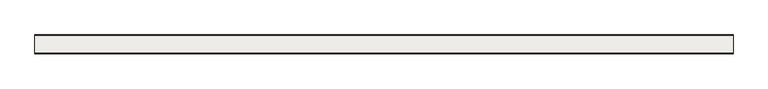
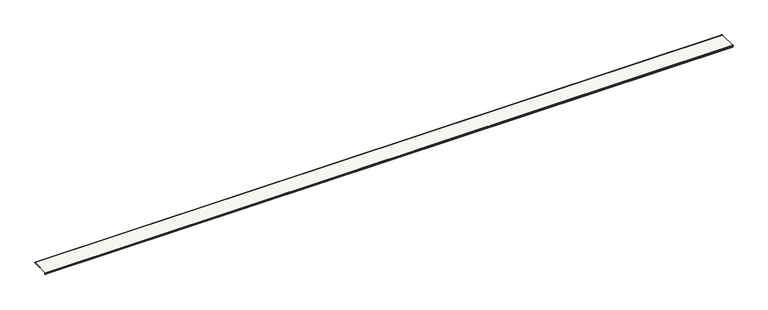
"""IFC4 building model written with IfcOpenShell, lengths in millimetres: slab geometry, ROSA GRES_J62 : Pieza J62_Tresor_Java_Anti-Slip."""

from ifc_helpers import new_model, si_unit, frame, origin, place, context, project, spatial, polyline, circle_curve, source, transform, mapped, element, save
from ifc_brep_helpers import plane_surface, cylinder_surface, revolved_surface, advanced_brep


def slab_c2f96149(model_context):
    return source(origin(), model_context, "Body", "AdvancedBrep", [
        advanced_brep(
        [(11765.0, 317.0, 2.5), (11765.0, 317.0, 10.0774941), (11765.0, 314.2818333, 12.7946269), (11765.0, 3.9876034, 12.7946269), (11765.0, 0.0, 8.2984975), (11765.0, 0.0, -0.2793766), (11765.0, 0.7963935, -2.84429), (11765.0, 14.760096, -23.1626329), (11765.0, 17.666394, -25.1262743), (11765.0, 18.5721049, -25.1262743), (11765.0, 19.473321, -26.1221068), (11765.0, 20.3835268, -27.1188383), (11765.0, 26.7240304, -27.1188383), (11765.0, 29.4411632, -24.4017055), (11765.0, 29.4411632, -18.2354274), (11765.0, 24.5931401, -10.7276172), (11765.0, 29.6363327, 0.0), (11765.0, 314.5, 0.0), (0.0, 317.0, 2.5), (0.0, 314.5, 0.0), (0.0, 29.6363327, 0.0), (0.0, 24.5931401, -10.7276172), (0.0, 29.4411632, -18.2354274), (0.0, 29.4411632, -24.4017055), (0.0, 26.7240304, -27.1188383), (0.0, 20.3835268, -27.1188383), (0.0, 19.4823107, -26.1230058), (0.0, 18.5721049, -25.1262743), (0.0, 17.666394, -25.1262743), (0.0, 14.760096, -23.1626329), (0.0, 0.7963935, -2.84429), (0.0, 0.0, -0.2793766), (0.0, 0.0, 8.2984975), (0.0, 3.9876034, 12.7946269), (0.0, 314.2818333, 12.7946269), (0.0, 316.9989661, 10.0774941)],
        [
            (0, 1),
            (1, 2, circle_curve(frame((11765.0, 314.2818333, 10.0774941), z_axis=(1.0, 0.0, 0.0), x_axis=(0.0, 0.0, 1.0)), 2.7171328)),
            (2, 3),
            (3, 4, circle_curve(frame((11765.0, 4.5285547, 8.2984975), z_axis=(1.0, 0.0, 0.0), x_axis=(0.0, -0.9928398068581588, -0.11945341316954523)), 4.5285547)),
            (4, 5),
            (5, 6, circle_curve(frame((11765.0, 4.5285547, -0.2793766), z_axis=(1.0, 0.0, 0.0), x_axis=(0.0, 0.0, -1.0)), 4.5285547)),
            (6, 7),
            (7, 8, circle_curve(frame((11765.0, 18.9818017, -20.0468365), z_axis=(1.0, 0.0, 0.0), x_axis=(0.0, 0.5938246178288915, -0.8045945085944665)), 5.2469978)),
            (8, 9),
            (9, 10, circle_curve(frame((11765.0, 18.5721049, -26.0319852), z_axis=(-1.0, 0.0, 0.0), x_axis=(0.0, 1.0, 0.0)), 0.9057109)),
            (10, 11, circle_curve(frame((11765.0, 20.3835268, -26.2131274), z_axis=(1.0, 0.0, 0.0), x_axis=(0.0, -0.09950371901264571, -0.9950371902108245)), 0.9057109)),
            (11, 12),
            (12, 13, circle_curve(frame((11765.0, 26.7240304, -24.4017055), z_axis=(1.0, 0.0, 0.0), x_axis=(0.0, 1.0, 0.0)), 2.7171328)),
            (13, 14),
            (14, 15),
            (15, 16, circle_curve(frame((11765.0, 30.1604402, -6.7956336), z_axis=(-1.0, 0.0, 0.0), x_axis=(0.0, -0.5768912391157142, 0.8168209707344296)), 6.8158144)),
            (16, 17),
            (17, 0, circle_curve(frame((11765.0, 314.5, 2.5), z_axis=(1.0, 0.0, 0.0), x_axis=(0.0, 1.0, 0.0)), 2.5)),
            (18, 19, circle_curve(frame((0.0, 314.5, 2.5), z_axis=(-1.0, 0.0, 0.0), x_axis=(0.0, 1.0, 0.0)), 2.5)),
            (19, 20),
            (20, 21, circle_curve(frame((0.0, 30.1604402, -6.7956336), z_axis=(1.0, 0.0, 0.0), x_axis=(0.0, -0.5768912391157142, 0.8168209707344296)), 6.8158144)),
            (21, 22),
            (22, 23),
            (23, 24, circle_curve(frame((0.0, 26.7240304, -24.4017055), z_axis=(-1.0, 0.0, 0.0), x_axis=(0.0, 1.0, 0.0)), 2.7171328)),
            (24, 25),
            (25, 26, circle_curve(frame((0.0, 20.3835268, -26.2131274), z_axis=(-1.0, 0.0, 0.0), x_axis=(0.0, -0.09950371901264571, -0.9950371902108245)), 0.9057109)),
            (26, 27, circle_curve(frame((0.0, 18.5721049, -26.0319852), z_axis=(1.0, 0.0, 0.0), x_axis=(0.0, 1.0, 0.0)), 0.9057109)),
            (27, 28),
            (28, 29, circle_curve(frame((0.0, 18.9818017, -20.0468365), z_axis=(-1.0, 0.0, 0.0), x_axis=(0.0, 0.5938246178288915, -0.8045945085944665)), 5.2469978)),
            (29, 30),
            (30, 31, circle_curve(frame((0.0, 4.5285547, -0.2793766), z_axis=(-1.0, 0.0, 0.0), x_axis=(0.0, 0.0, -1.0)), 4.5285547)),
            (31, 32),
            (32, 33, circle_curve(frame((0.0, 4.5285547, 8.2984975), z_axis=(-1.0, 0.0, 0.0), x_axis=(0.0, -0.9928398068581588, -0.11945341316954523)), 4.5285547)),
            (33, 34),
            (34, 35, circle_curve(frame((0.0, 314.2818333, 10.0774941), z_axis=(-1.0, 0.0, 0.0), x_axis=(0.0, 0.0, 1.0)), 2.7171328)),
            (35, 18),
            (16, 20),
            (19, 17),
            (18, 0),
            (35, 1),
            (34, 2),
            (33, 3),
            (32, 4),
            (31, 5),
            (30, 6),
            (29, 7),
            (28, 8),
            (27, 9),
            (26, 10),
            (25, 11),
            (24, 12),
            (23, 13),
            (22, 14),
            (21, 15),
        ],
        [
            plane_surface(frame((11765.0, 317.0, 10.0774941), z_axis=(1.0, 0.0, 0.0), x_axis=(0.0, 0.0, 1.0))),
            plane_surface(frame((0.0, 317.0, 10.0774941), z_axis=(-1.0, 0.0, 0.0), x_axis=(0.0, 0.0, -1.0))),
            plane_surface(frame((11765.0, 172.0681664, 0.0), z_axis=(0.0, 0.0, -1.0), x_axis=(0.0, 1.0, 0.0))),
            cylinder_surface(frame((11765.0, 314.5, 2.5), z_axis=(-1.0, 0.0, 0.0), x_axis=(0.0, 1.0, 0.0)), 2.5),
            plane_surface(frame((11765.0, 317.0, 6.288747), z_axis=(0.0, 1.0, 0.0), x_axis=(0.0, 0.0, 1.0))),
            cylinder_surface(frame((11765.0, 314.2818333, 10.0774941), z_axis=(-1.0, 0.0, 0.0), x_axis=(0.0, 0.0, 1.0)), 2.7171328),
            plane_surface(frame((11765.0, 159.1347183, 12.7946269), z_axis=(0.0, 0.0, 1.0), x_axis=(0.0, -1.0, 0.0))),
            cylinder_surface(frame((11765.0, 4.5285547, 8.2984975), z_axis=(-1.0, 0.0, 0.0), x_axis=(0.0, -0.9928398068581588, -0.11945341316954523)), 4.5285547),
            plane_surface(frame((11765.0, 0.0, 4.0095604), z_axis=(0.0, -1.0, 0.0), x_axis=(0.0, 0.0, -1.0))),
            cylinder_surface(frame((11765.0, 4.5285547, -0.2793766), z_axis=(-1.0, 0.0, 0.0), x_axis=(0.0, 0.0, -1.0)), 4.5285547),
            plane_surface(frame((11765.0, 7.7782448, -13.0034614), z_axis=(0.0, -0.8241395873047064, -0.5663867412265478), x_axis=(0.0, 0.5663867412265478, -0.8241395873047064))),
            cylinder_surface(frame((11765.0, 18.9818017, -20.0468365), z_axis=(-1.0, 0.0, 0.0), x_axis=(0.0, 0.5938246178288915, -0.8045945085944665)), 5.2469978),
            plane_surface(frame((11765.0, 18.1192494, -25.1262743), z_axis=(0.0, -1.360227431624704e-10, -1.0), x_axis=(0.0, 1.0, -1.360227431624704e-10))),
            revolved_surface(polyline([(0.0, 19.4778158, -26.0319852), (11765.0, 19.4778158, -26.0319852)]), (11765.0, 18.5721049, -26.0319852), (-1.0, 0.0, 0.0)),
            cylinder_surface(frame((11765.0, 20.3835268, -26.2131274), z_axis=(-1.0, 0.0, 0.0), x_axis=(0.0, -0.09950371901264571, -0.9950371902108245)), 0.9057109),
            plane_surface(frame((11765.0, 23.5537786, -27.1188383), z_axis=(0.0, -1.9937891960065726e-11, -1.0), x_axis=(0.0, 1.0, -1.9937891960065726e-11))),
            cylinder_surface(frame((11765.0, 26.7240304, -24.4017055), z_axis=(-1.0, 0.0, 0.0), x_axis=(0.0, 1.0, 0.0)), 2.7171328),
            plane_surface(frame((11765.0, 29.4411632, -21.3185665), z_axis=(0.0, 1.0, 0.0), x_axis=(0.0, 0.0, 1.0))),
            plane_surface(frame((11765.0, 27.0171517, -14.4815223), z_axis=(0.0, 0.8400786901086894, 0.5424645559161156), x_axis=(0.0, -0.5424645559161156, 0.8400786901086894))),
            revolved_surface(polyline([(0.0, 26.228456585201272, -1.2283334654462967), (11765.0, 26.228456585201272, -1.2283334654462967)]), (11765.0, 30.1604402, -6.7956336), (-1.0, 0.0, 0.0)),
        ],
        [
            (0, [[1, 2, 3, 4, 5, 6, 7, 8, 9, 10, 11, 12, 13, 14, 15, 16, 17, 18]]),
            (1, [[19, 20, 21, 22, 23, 24, 25, 26, 27, 28, 29, 30, 31, 32, 33, 34, 35, 36]]),
            (2, [[-17, 37, -20, 38]]),
            (3, [[-18, -38, -19, 39]]),
            (4, [[-1, -39, -36, 40]]),
            (5, [[-2, -40, -35, 41]]),
            (6, [[-3, -41, -34, 42]]),
            (7, [[-4, -42, -33, 43]]),
            (8, [[-5, -43, -32, 44]]),
            (9, [[-6, -44, -31, 45]]),
            (10, [[-7, -45, -30, 46]]),
            (11, [[-8, -46, -29, 47]]),
            (12, [[-9, -47, -28, 48]]),
            (13, [[-10, -48, -27, 49]]),
            (14, [[-11, -49, -26, 50]]),
            (15, [[-12, -50, -25, 51]]),
            (16, [[-13, -51, -24, 52]]),
            (17, [[-14, -52, -23, 53]]),
            (18, [[-15, -53, -22, 54]]),
            (19, [[-16, -54, -21, -37]]),
        ],
    ),
    ])


if __name__ == "__main__":
    model = new_model("IFC4")
    model_context = context("Model", 3, world=origin())
    ifc_project = project(units=[si_unit("LENGTHUNIT", "METRE", prefix="MILLI")], contexts=[model_context])
    site = spatial("IfcSite", under=ifc_project)
    building = spatial("IfcBuilding", under=site)
    placement = place(None, origin())
    slab_shape = slab_c2f96149(model_context)
    element("IfcSlab", 1, ObjectType="ROSA GRES_J62 : Pieza J62_Tresor_Java_Anti-Slip", at=placement, inside=building, context=model_context, shape_type="MappedRepresentation", body=[
        mapped(slab_shape, transform((0.0, 0.0, 0.0), x_axis=(1.0, 0.0, 0.0), y_axis=(0.0, 1.0, 0.0), z_axis=(0.0, 0.0, 1.0))),
    ])
    save(model, "model.ifc")
